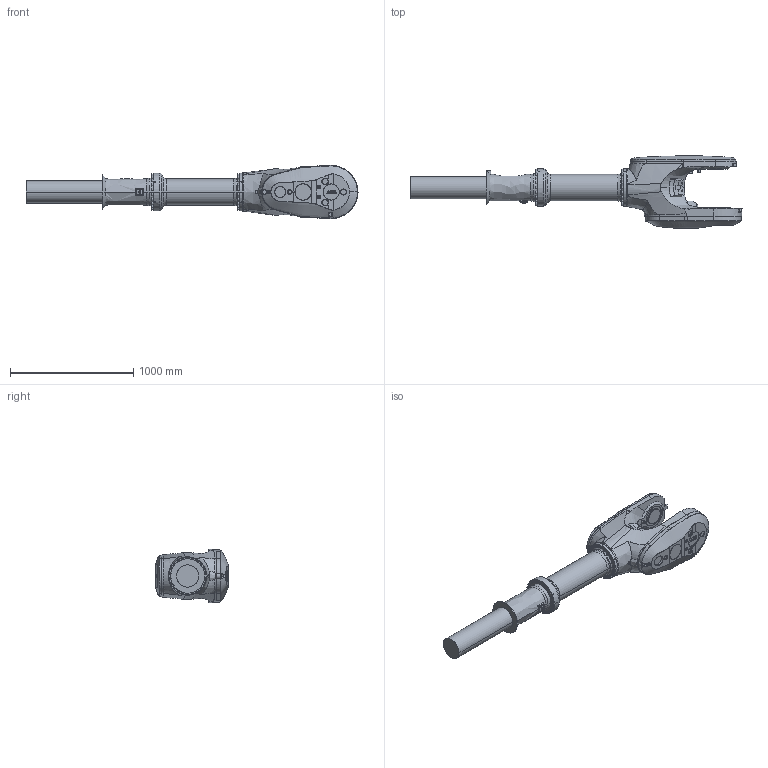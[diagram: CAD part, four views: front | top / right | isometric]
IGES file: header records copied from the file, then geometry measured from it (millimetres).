
Start section: SolidWorks IGES file using analytic representation for surfaces
Global section: file name: B:\DM\Robotics\SEROP_PROJ\Product Development\DevelopmentProjects\HD\3_Design PRMD\4_Struktur SAP o CAD\Lättmodeller\IRB8700_550-420\IRB8700_550-420_IRC5_IGES_j\IRB8700_550-420_IRC5_rev00_LINK4_CAD.IGS; native system: SolidWorks 2014; preprocessor: SolidWorks 2014; author: sepehak; date: 150604.100635; units: millimetre
Bounding box: 2693.41 x 585.67 x 432.23 mm (x, y, z)
Surface area: 3054199.1 mm2 (no closed solid volume)
Topology: 0 solids, 0 shells, 709 faces, 14732 edges, 14720 vertices
Faces by surface type: bspline 362, revolution 347
